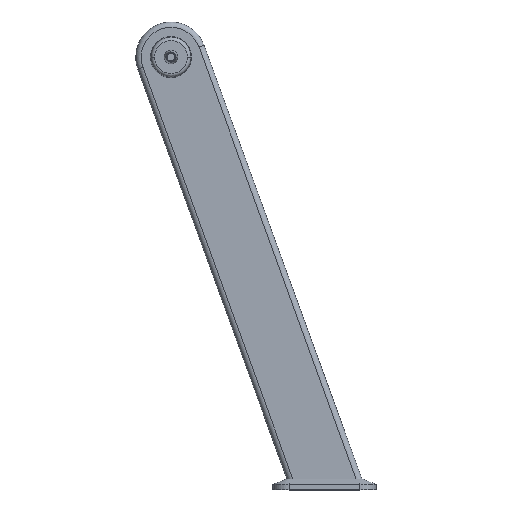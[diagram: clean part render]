
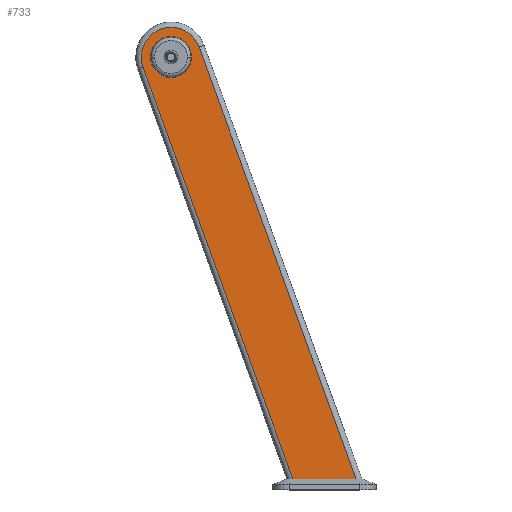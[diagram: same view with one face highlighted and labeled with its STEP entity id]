
A CAD part, top view. The second image highlights one B-rep face of the part: STEP entity #733.
In plain terms, the highlighted planar face has unit normal (0, 0, 1).
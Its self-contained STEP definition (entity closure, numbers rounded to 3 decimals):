
#40 = VERTEX_POINT ( 'NONE', #1909 ) ;
#95 = EDGE_CURVE ( 'NONE', #908, #167, #162, .T. ) ;
#135 = AXIS2_PLACEMENT_3D ( 'NONE', #638, #2398, #907 ) ;
#162 = LINE ( 'NONE', #1414, #1673 ) ;
#167 = VERTEX_POINT ( 'NONE', #2635 ) ;
#279 = DIRECTION ( 'NONE',  ( 1., 0., 0. ) ) ;
#548 = EDGE_LOOP ( 'NONE', ( #900, #905, #944, #947 ) ) ;
#557 = CARTESIAN_POINT ( 'NONE',  ( 231.402, -796.58, 31.25 ) ) ;
#573 = EDGE_CURVE ( 'NONE', #759, #749, #1750, .T. ) ;
#575 = CARTESIAN_POINT ( 'NONE',  ( -51.683, -18.811, 31.25 ) ) ;
#638 = CARTESIAN_POINT ( 'NONE',  ( 0., 0., 31.25 ) ) ;
#713 = LINE ( 'NONE', #1465, #1409 ) ;
#733 = ADVANCED_FACE ( 'NONE', ( #735, #2628 ), #1615, .T. ) ;
#735 = FACE_OUTER_BOUND ( 'NONE', #548, .T. ) ;
#749 = VERTEX_POINT ( 'NONE', #575 ) ;
#759 = VERTEX_POINT ( 'NONE', #1627 ) ;
#895 = DIRECTION ( 'NONE',  ( 0., 0., 1. ) ) ;
#900 = ORIENTED_EDGE ( 'NONE', *, *, #2477, .T. ) ;
#905 = ORIENTED_EDGE ( 'NONE', *, *, #573, .T. ) ;
#907 = DIRECTION ( 'NONE',  ( 1., 0., 0. ) ) ;
#908 = VERTEX_POINT ( 'NONE', #1971 ) ;
#944 = ORIENTED_EDGE ( 'NONE', *, *, #1259, .T. ) ;
#947 = ORIENTED_EDGE ( 'NONE', *, *, #95, .T. ) ;
#988 = ORIENTED_EDGE ( 'NONE', *, *, #2763, .F. ) ;
#992 = ORIENTED_EDGE ( 'NONE', *, *, #2357, .F. ) ;
#1259 = EDGE_CURVE ( 'NONE', #749, #908, #1508, .T. ) ;
#1349 = CARTESIAN_POINT ( 'NONE',  ( 0., 0., 31.25 ) ) ;
#1401 = AXIS2_PLACEMENT_3D ( 'NONE', #1880, #2794, #279 ) ;
#1409 = VECTOR ( 'NONE', #2887, 1000. ) ;
#1414 = CARTESIAN_POINT ( 'NONE',  ( 0., -780., 31.25 ) ) ;
#1465 = CARTESIAN_POINT ( 'NONE',  ( 51.683, 18.811, 31.25 ) ) ;
#1508 = LINE ( 'NONE', #557, #3257 ) ;
#1609 = DIRECTION ( 'NONE',  ( 1., 0., 0. ) ) ;
#1615 = PLANE ( 'NONE',  #1401 ) ;
#1627 = CARTESIAN_POINT ( 'NONE',  ( 51.683, 18.811, 31.25 ) ) ;
#1669 = DIRECTION ( 'NONE',  ( 1., 0., 0. ) ) ;
#1673 = VECTOR ( 'NONE', #1669, 1000. ) ;
#1750 = CIRCLE ( 'NONE', #2900, 55. ) ;
#1880 = CARTESIAN_POINT ( 'NONE',  ( 0., 0., 31.25 ) ) ;
#1909 = CARTESIAN_POINT ( 'NONE',  ( -38., 0., 31.25 ) ) ;
#1971 = CARTESIAN_POINT ( 'NONE',  ( 225.367, -780., 31.25 ) ) ;
#2101 = DIRECTION ( 'NONE',  ( 0.342, -0.94, 0. ) ) ;
#2332 = AXIS2_PLACEMENT_3D ( 'NONE', #1349, #3020, #1609 ) ;
#2357 = EDGE_CURVE ( 'NONE', #40, #3057, #2903, .T. ) ;
#2388 = CARTESIAN_POINT ( 'NONE',  ( 0., 0., 31.25 ) ) ;
#2398 = DIRECTION ( 'NONE',  ( 0., 0., 1. ) ) ;
#2427 = CIRCLE ( 'NONE', #2332, 38. ) ;
#2477 = EDGE_CURVE ( 'NONE', #167, #759, #713, .T. ) ;
#2617 = DIRECTION ( 'NONE',  ( 1., 0., 0. ) ) ;
#2628 = FACE_BOUND ( 'NONE', #2723, .T. ) ;
#2635 = CARTESIAN_POINT ( 'NONE',  ( 342.427, -780., 31.25 ) ) ;
#2701 = CARTESIAN_POINT ( 'NONE',  ( 38., 0., 31.25 ) ) ;
#2723 = EDGE_LOOP ( 'NONE', ( #988, #992 ) ) ;
#2763 = EDGE_CURVE ( 'NONE', #3057, #40, #2427, .T. ) ;
#2794 = DIRECTION ( 'NONE',  ( 0., 0., 1. ) ) ;
#2887 = DIRECTION ( 'NONE',  ( -0.342, 0.94, 0. ) ) ;
#2900 = AXIS2_PLACEMENT_3D ( 'NONE', #2388, #895, #2617 ) ;
#2903 = CIRCLE ( 'NONE', #135, 38. ) ;
#3020 = DIRECTION ( 'NONE',  ( 0., 0., 1. ) ) ;
#3057 = VERTEX_POINT ( 'NONE', #2701 ) ;
#3257 = VECTOR ( 'NONE', #2101, 1000. ) ;
